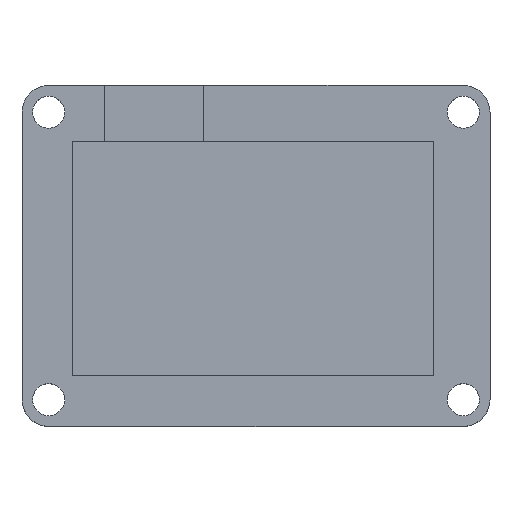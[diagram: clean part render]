
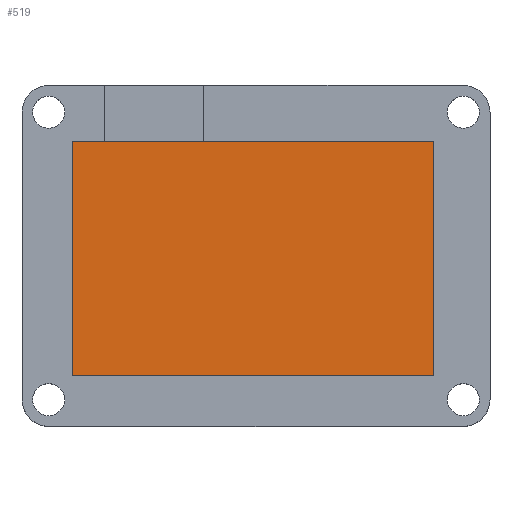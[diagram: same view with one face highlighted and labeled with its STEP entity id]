
A CAD part, top view. The second image highlights one B-rep face of the part: STEP entity #519.
In plain terms, the highlighted planar face has unit normal (0, 0, 1).
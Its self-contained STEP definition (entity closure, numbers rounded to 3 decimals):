
#59=FACE_OUTER_BOUND('',#87,.T.);
#87=EDGE_LOOP('',(#367,#368,#369,#370));
#121=LINE('',#763,#177);
#124=LINE('',#769,#180);
#127=LINE('',#775,#183);
#130=LINE('',#779,#186);
#177=VECTOR('',#612,10.);
#180=VECTOR('',#617,10.);
#183=VECTOR('',#622,10.);
#186=VECTOR('',#627,10.);
#233=VERTEX_POINT('',#760);
#234=VERTEX_POINT('',#762);
#236=VERTEX_POINT('',#768);
#238=VERTEX_POINT('',#774);
#281=EDGE_CURVE('',#234,#233,#121,.T.);
#284=EDGE_CURVE('',#236,#234,#124,.T.);
#287=EDGE_CURVE('',#238,#236,#127,.T.);
#290=EDGE_CURVE('',#233,#238,#130,.T.);
#367=ORIENTED_EDGE('',*,*,#290,.T.);
#368=ORIENTED_EDGE('',*,*,#287,.T.);
#369=ORIENTED_EDGE('',*,*,#284,.T.);
#370=ORIENTED_EDGE('',*,*,#281,.T.);
#499=PLANE('',#563);
#519=ADVANCED_FACE('',(#59),#499,.T.);
#563=AXIS2_PLACEMENT_3D('',#780,#628,#629);
#612=DIRECTION('',(0.,-1.,0.));
#617=DIRECTION('',(-1.,0.,0.));
#622=DIRECTION('',(0.,1.,0.));
#627=DIRECTION('',(1.,0.,0.));
#628=DIRECTION('center_axis',(0.,0.,1.));
#629=DIRECTION('ref_axis',(1.,0.,0.));
#760=CARTESIAN_POINT('',(-17.675,6.138,6.));
#762=CARTESIAN_POINT('',(-17.675,50.,6.));
#763=CARTESIAN_POINT('',(-17.675,17.104,6.));
#768=CARTESIAN_POINT('',(50.,50.,6.));
#769=CARTESIAN_POINT('',(-0.756,50.,6.));
#774=CARTESIAN_POINT('',(50.,6.138,6.));
#775=CARTESIAN_POINT('',(50.,39.035,6.));
#779=CARTESIAN_POINT('',(33.081,6.138,6.));
#780=CARTESIAN_POINT('Origin',(16.163,28.069,6.));
